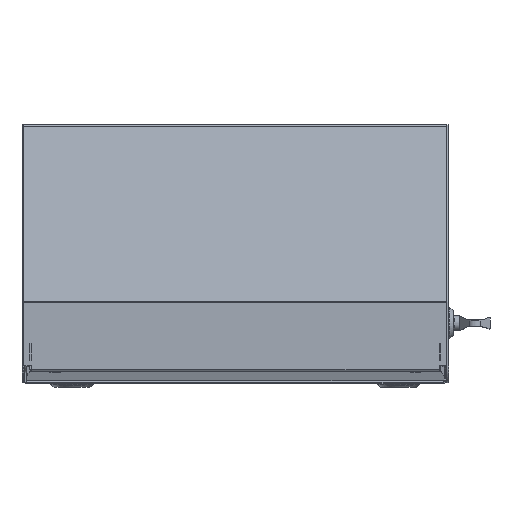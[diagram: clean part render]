
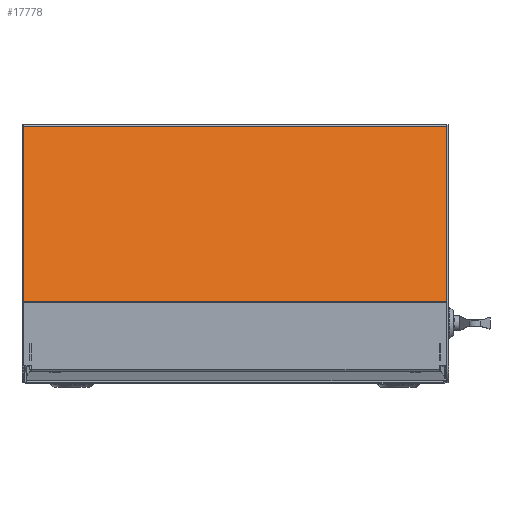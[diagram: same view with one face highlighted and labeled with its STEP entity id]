
A CAD part, front view. The second image highlights one B-rep face of the part: STEP entity #17778.
In plain terms, the highlighted planar face has unit normal (0, -0.966, 0.259) as drawn and (-0.966, 0.259, 0) by its records, which use the part's own axes.
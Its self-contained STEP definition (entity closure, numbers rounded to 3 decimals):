
#1186=PLANE('',#19086);
#1908=FACE_OUTER_BOUND('',#2998,.T.);
#2998=EDGE_LOOP('',(#13484,#13485,#13486,#13487));
#4204=LINE('',#26876,#5875);
#4285=LINE('',#27105,#5956);
#4291=LINE('',#27121,#5962);
#4292=LINE('',#27123,#5963);
#5875=VECTOR('',#21651,161.569);
#5956=VECTOR('',#21872,161.569);
#5962=VECTOR('',#21890,377.);
#5963=VECTOR('',#21893,377.);
#8293=VERTEX_POINT('',#26873);
#8294=VERTEX_POINT('',#26875);
#8371=VERTEX_POINT('',#27102);
#8372=VERTEX_POINT('',#27104);
#10141=EDGE_CURVE('',#8293,#8294,#4204,.T.);
#10255=EDGE_CURVE('',#8372,#8371,#4285,.T.);
#10264=EDGE_CURVE('',#8293,#8372,#4291,.T.);
#10265=EDGE_CURVE('',#8294,#8371,#4292,.T.);
#13484=ORIENTED_EDGE('',*,*,#10255,.T.);
#13485=ORIENTED_EDGE('',*,*,#10265,.F.);
#13486=ORIENTED_EDGE('',*,*,#10141,.F.);
#13487=ORIENTED_EDGE('',*,*,#10264,.T.);
#17778=ADVANCED_FACE('',(#1908),#1186,.T.);
#19086=AXIS2_PLACEMENT_3D('',#27122,#21891,#21892);
#21651=DIRECTION('',(0.259,0.966,0.));
#21872=DIRECTION('',(0.259,0.966,0.));
#21890=DIRECTION('',(0.,0.,1.));
#21891=DIRECTION('center_axis',(-0.966,0.259,0.));
#21892=DIRECTION('ref_axis',(0.,0.,1.));
#21893=DIRECTION('',(0.,0.,1.));
#26873=CARTESIAN_POINT('',(-330.006,-34.563,-188.5));
#26875=CARTESIAN_POINT('',(-288.189,121.5,-188.5));
#26876=CARTESIAN_POINT('',(-330.006,-34.563,-188.5));
#27102=CARTESIAN_POINT('',(-288.189,121.5,188.5));
#27104=CARTESIAN_POINT('',(-330.006,-34.563,188.5));
#27105=CARTESIAN_POINT('',(-330.006,-34.563,188.5));
#27121=CARTESIAN_POINT('',(-330.006,-34.563,-188.5));
#27122=CARTESIAN_POINT('Origin',(-330.006,-34.563,-188.5));
#27123=CARTESIAN_POINT('',(-288.189,121.5,-188.5));
